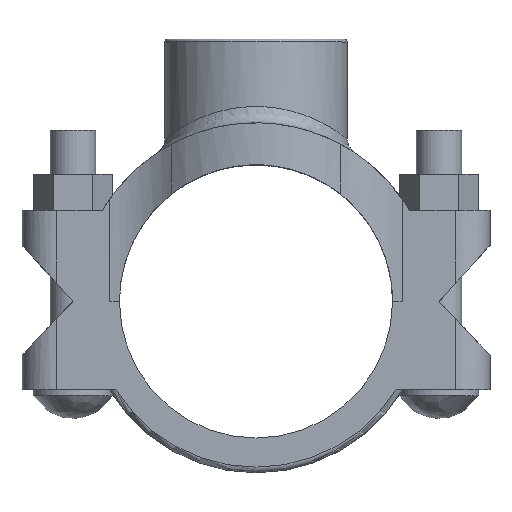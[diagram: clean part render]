
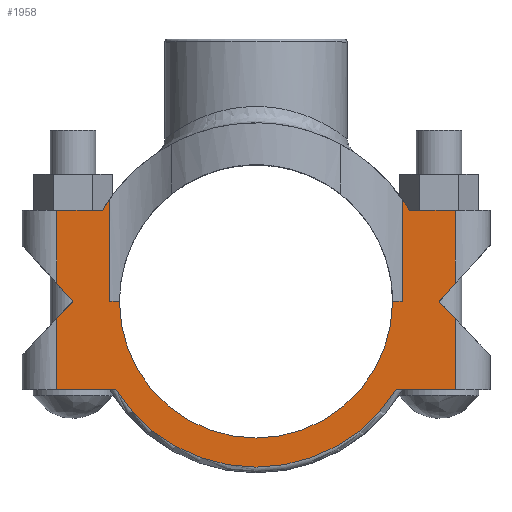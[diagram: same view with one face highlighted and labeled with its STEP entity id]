
A CAD part, top view. The second image highlights one B-rep face of the part: STEP entity #1958.
In plain terms, the highlighted planar face has unit normal (0, 0, 1).
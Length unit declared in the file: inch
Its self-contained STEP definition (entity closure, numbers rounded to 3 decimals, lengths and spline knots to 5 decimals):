
#109=PLANE('',#2148);
#166=LINE('',#3078,#318);
#172=LINE('',#3260,#324);
#215=LINE('',#3481,#367);
#228=LINE('',#3518,#380);
#235=LINE('',#3634,#387);
#239=LINE('',#3647,#391);
#244=LINE('',#3658,#396);
#245=LINE('',#3660,#397);
#254=LINE('',#3684,#406);
#255=LINE('',#3688,#407);
#256=LINE('',#3691,#408);
#257=LINE('',#3692,#409);
#258=LINE('',#3694,#410);
#259=LINE('',#3695,#411);
#260=LINE('',#3697,#412);
#261=LINE('',#3698,#413);
#318=VECTOR('',#2317,0.3937);
#324=VECTOR('',#2361,0.3937);
#367=VECTOR('',#2504,0.3937);
#380=VECTOR('',#2541,0.3937);
#387=VECTOR('',#2556,0.3937);
#391=VECTOR('',#2568,0.3937);
#396=VECTOR('',#2581,0.3937);
#397=VECTOR('',#2584,0.3937);
#406=VECTOR('',#2611,0.3937);
#407=VECTOR('',#2616,0.3937);
#408=VECTOR('',#2619,0.3937);
#409=VECTOR('',#2620,0.3937);
#410=VECTOR('',#2621,0.3937);
#411=VECTOR('',#2622,0.3937);
#412=VECTOR('',#2623,0.3937);
#413=VECTOR('',#2624,0.3937);
#502=FACE_OUTER_BOUND('',#606,.T.);
#606=EDGE_LOOP('',(#1590,#1591,#1592,#1593,#1594,#1595,#1596,#1597,#1598,
#1599,#1600,#1601,#1602,#1603,#1604,#1605,#1606,#1607,#1608,#1609));
#638=CIRCLE('',#2010,1.96);
#639=CIRCLE('',#2011,1.96);
#694=CIRCLE('',#2126,1.5);
#702=CIRCLE('',#2149,1.82);
#755=VERTEX_POINT('',#2876);
#756=VERTEX_POINT('',#2878);
#759=VERTEX_POINT('',#2912);
#760=VERTEX_POINT('',#2925);
#798=VERTEX_POINT('',#3077);
#811=VERTEX_POINT('',#3258);
#861=VERTEX_POINT('',#3478);
#862=VERTEX_POINT('',#3480);
#873=VERTEX_POINT('',#3515);
#874=VERTEX_POINT('',#3517);
#877=VERTEX_POINT('',#3524);
#882=VERTEX_POINT('',#3577);
#887=VERTEX_POINT('',#3633);
#892=VERTEX_POINT('',#3645);
#894=VERTEX_POINT('',#3656);
#900=VERTEX_POINT('',#3683);
#901=VERTEX_POINT('',#3687);
#902=VERTEX_POINT('',#3689);
#903=VERTEX_POINT('',#3693);
#904=VERTEX_POINT('',#3696);
#942=EDGE_CURVE('',#756,#755,#638,.T.);
#946=EDGE_CURVE('',#760,#759,#639,.T.);
#996=EDGE_CURVE('',#798,#760,#166,.T.);
#1017=EDGE_CURVE('',#755,#811,#172,.T.);
#1089=EDGE_CURVE('',#862,#861,#215,.T.);
#1108=EDGE_CURVE('',#874,#873,#228,.T.);
#1117=EDGE_CURVE('',#877,#882,#694,.T.);
#1123=EDGE_CURVE('',#887,#874,#235,.T.);
#1130=EDGE_CURVE('',#861,#892,#239,.T.);
#1136=EDGE_CURVE('',#894,#759,#244,.T.);
#1137=EDGE_CURVE('',#877,#894,#245,.T.);
#1149=EDGE_CURVE('',#887,#900,#254,.T.);
#1151=EDGE_CURVE('',#901,#892,#255,.T.);
#1152=EDGE_CURVE('',#901,#902,#702,.T.);
#1153=EDGE_CURVE('',#900,#902,#256,.T.);
#1154=EDGE_CURVE('',#873,#798,#257,.T.);
#1155=EDGE_CURVE('',#903,#882,#258,.T.);
#1156=EDGE_CURVE('',#903,#756,#259,.T.);
#1157=EDGE_CURVE('',#904,#811,#260,.T.);
#1158=EDGE_CURVE('',#904,#862,#261,.T.);
#1590=ORIENTED_EDGE('',*,*,#1089,.T.);
#1591=ORIENTED_EDGE('',*,*,#1130,.T.);
#1592=ORIENTED_EDGE('',*,*,#1151,.F.);
#1593=ORIENTED_EDGE('',*,*,#1152,.T.);
#1594=ORIENTED_EDGE('',*,*,#1153,.F.);
#1595=ORIENTED_EDGE('',*,*,#1149,.F.);
#1596=ORIENTED_EDGE('',*,*,#1123,.T.);
#1597=ORIENTED_EDGE('',*,*,#1108,.T.);
#1598=ORIENTED_EDGE('',*,*,#1154,.T.);
#1599=ORIENTED_EDGE('',*,*,#996,.T.);
#1600=ORIENTED_EDGE('',*,*,#946,.T.);
#1601=ORIENTED_EDGE('',*,*,#1136,.F.);
#1602=ORIENTED_EDGE('',*,*,#1137,.F.);
#1603=ORIENTED_EDGE('',*,*,#1117,.T.);
#1604=ORIENTED_EDGE('',*,*,#1155,.F.);
#1605=ORIENTED_EDGE('',*,*,#1156,.T.);
#1606=ORIENTED_EDGE('',*,*,#942,.T.);
#1607=ORIENTED_EDGE('',*,*,#1017,.T.);
#1608=ORIENTED_EDGE('',*,*,#1157,.F.);
#1609=ORIENTED_EDGE('',*,*,#1158,.T.);
#1958=ADVANCED_FACE('',(#502),#109,.T.);
#2010=AXIS2_PLACEMENT_3D('',#2879,#2219,#2220);
#2011=AXIS2_PLACEMENT_3D('',#2926,#2221,#2222);
#2126=AXIS2_PLACEMENT_3D('',#3579,#2549,#2550);
#2148=AXIS2_PLACEMENT_3D('',#3686,#2614,#2615);
#2149=AXIS2_PLACEMENT_3D('',#3690,#2617,#2618);
#2219=DIRECTION('center_axis',(0.,0.,1.));
#2220=DIRECTION('ref_axis',(-0.86,-0.51,0.));
#2221=DIRECTION('center_axis',(0.,0.,1.));
#2222=DIRECTION('ref_axis',(-0.86,-0.51,0.));
#2317=DIRECTION('',(-1.,0.,0.));
#2361=DIRECTION('',(-1.,0.,0.));
#2504=DIRECTION('',(-0.688,-0.725,0.));
#2541=DIRECTION('',(0.67,0.742,0.));
#2549=DIRECTION('center_axis',(0.,0.,-1.));
#2550=DIRECTION('ref_axis',(-1.,0.,0.));
#2556=DIRECTION('',(-0.688,0.725,0.));
#2568=DIRECTION('',(0.,-1.,0.));
#2581=DIRECTION('',(0.,1.,0.));
#2584=DIRECTION('',(1.,0.,0.));
#2611=DIRECTION('',(0.,-1.,0.));
#2614=DIRECTION('center_axis',(0.,0.,1.));
#2615=DIRECTION('ref_axis',(1.,0.,0.));
#2616=DIRECTION('',(-1.,0.,0.));
#2617=DIRECTION('center_axis',(0.,0.,1.));
#2618=DIRECTION('ref_axis',(-1.,0.,0.));
#2619=DIRECTION('',(-1.,0.,0.));
#2620=DIRECTION('',(0.,1.,0.));
#2621=DIRECTION('',(1.,0.,0.));
#2622=DIRECTION('',(0.,1.,0.));
#2623=DIRECTION('',(0.,1.,0.));
#2624=DIRECTION('',(0.67,-0.742,0.));
#2876=CARTESIAN_POINT('',(-1.6857,1.,0.75));
#2878=CARTESIAN_POINT('',(-1.60565,1.12404,0.75));
#2879=CARTESIAN_POINT('Origin',(0.,0.,0.75));
#2912=CARTESIAN_POINT('',(1.60565,1.12404,0.75));
#2925=CARTESIAN_POINT('',(1.6857,1.,0.75));
#2926=CARTESIAN_POINT('Origin',(0.,0.,0.75));
#3077=CARTESIAN_POINT('',(2.19,1.,0.75));
#3078=CARTESIAN_POINT('',(1.64568,1.,0.75));
#3258=CARTESIAN_POINT('',(-2.19,1.,0.75));
#3260=CARTESIAN_POINT('',(-2.38,1.,0.75));
#3478=CARTESIAN_POINT('',(-2.19,-0.18964,0.75));
#3480=CARTESIAN_POINT('',(-2.01,0.,0.75));
#3481=CARTESIAN_POINT('',(-1.43322,0.60768,0.75));
#3515=CARTESIAN_POINT('',(2.19,0.19929,0.75));
#3517=CARTESIAN_POINT('',(2.01,0.,0.75));
#3518=CARTESIAN_POINT('',(2.19917,0.20943,0.75));
#3524=CARTESIAN_POINT('',(1.5,0.,0.75));
#3577=CARTESIAN_POINT('',(-1.5,0.,0.75));
#3579=CARTESIAN_POINT('Origin',(0.,0.,0.75));
#3633=CARTESIAN_POINT('',(2.19,-0.18964,0.75));
#3634=CARTESIAN_POINT('',(1.91418,0.10095,0.75));
#3645=CARTESIAN_POINT('',(-2.19,-0.97,0.75));
#3647=CARTESIAN_POINT('',(-2.19,0.,0.75));
#3656=CARTESIAN_POINT('',(1.60565,0.,0.75));
#3658=CARTESIAN_POINT('',(1.60565,0.,0.75));
#3660=CARTESIAN_POINT('',(1.095,0.,0.75));
#3683=CARTESIAN_POINT('',(2.19,-0.97,0.75));
#3684=CARTESIAN_POINT('',(2.19,0.,0.75));
#3686=CARTESIAN_POINT('Origin',(1.60565,0.,0.75));
#3687=CARTESIAN_POINT('',(-1.53997,-0.97,0.75));
#3688=CARTESIAN_POINT('',(-2.19,-0.97,0.75));
#3689=CARTESIAN_POINT('',(1.53997,-0.97,0.75));
#3690=CARTESIAN_POINT('Origin',(0.,0.,
0.75));
#3691=CARTESIAN_POINT('',(-2.19,-0.97,0.75));
#3692=CARTESIAN_POINT('',(2.19,0.,0.75));
#3693=CARTESIAN_POINT('',(-1.60565,0.,0.75));
#3694=CARTESIAN_POINT('',(1.095,0.,0.75));
#3695=CARTESIAN_POINT('',(-1.60565,0.,0.75));
#3696=CARTESIAN_POINT('',(-2.19,0.19929,0.75));
#3697=CARTESIAN_POINT('',(-2.19,0.,0.75));
#3698=CARTESIAN_POINT('',(-2.05044,0.04477,0.75));
